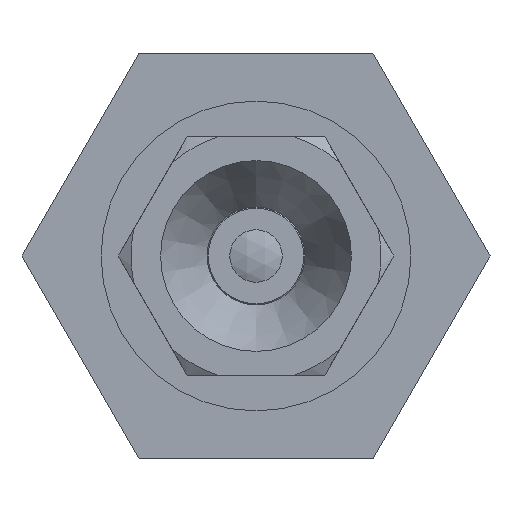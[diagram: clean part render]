
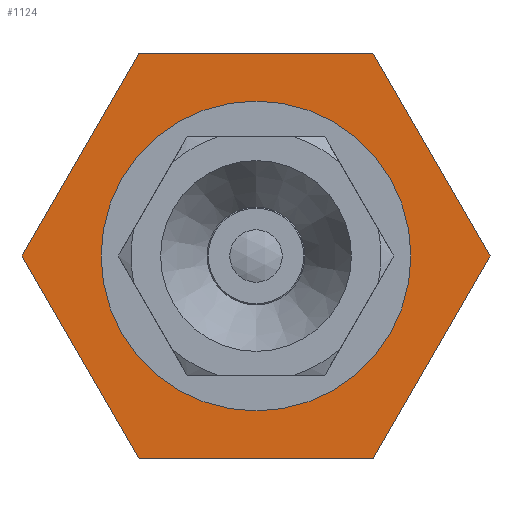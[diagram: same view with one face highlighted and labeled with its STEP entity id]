
A CAD part, front view. The second image highlights one B-rep face of the part: STEP entity #1124.
In plain terms, the highlighted planar face has unit normal (0, -1, 0) as drawn and (-1, 0, 0) by its records, which use the part's own axes.
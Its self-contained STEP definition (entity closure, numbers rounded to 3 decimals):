
#54=LINE('',#2328,#90);
#57=LINE('',#2334,#93);
#60=LINE('',#2340,#96);
#63=LINE('',#2346,#99);
#66=LINE('',#2352,#102);
#69=LINE('',#2357,#105);
#90=VECTOR('',#1920,1000.);
#93=VECTOR('',#1925,1000.);
#96=VECTOR('',#1930,1000.);
#99=VECTOR('',#1935,1000.);
#102=VECTOR('',#1940,1000.);
#105=VECTOR('',#1945,1000.);
#326=ORIENTED_EDGE('',*,*,#513,.F.);
#327=ORIENTED_EDGE('',*,*,#512,.F.);
#328=ORIENTED_EDGE('',*,*,#509,.F.);
#329=ORIENTED_EDGE('',*,*,#506,.F.);
#330=ORIENTED_EDGE('',*,*,#503,.F.);
#331=ORIENTED_EDGE('',*,*,#500,.F.);
#332=ORIENTED_EDGE('',*,*,#497,.F.);
#497=EDGE_CURVE('',#607,#608,#54,.T.);
#500=EDGE_CURVE('',#608,#610,#57,.T.);
#503=EDGE_CURVE('',#610,#612,#60,.T.);
#506=EDGE_CURVE('',#612,#614,#63,.T.);
#509=EDGE_CURVE('',#614,#616,#66,.T.);
#512=EDGE_CURVE('',#616,#607,#69,.T.);
#513=EDGE_CURVE('',#617,#617,#690,.T.);
#607=VERTEX_POINT('',#2327);
#608=VERTEX_POINT('',#2329);
#610=VERTEX_POINT('',#2335);
#612=VERTEX_POINT('',#2341);
#614=VERTEX_POINT('',#2347);
#616=VERTEX_POINT('',#2353);
#617=VERTEX_POINT('',#2360);
#690=CIRCLE('',#1683,6.5);
#788=EDGE_LOOP('',(#326));
#789=EDGE_LOOP('',(#327,#328,#329,#330,#331,#332));
#945=FACE_BOUND('',#788,.T.);
#946=FACE_BOUND('',#789,.T.);
#1070=PLANE('',#1682);
#1124=ADVANCED_FACE('',(#945,#946),#1070,.F.);
#1682=AXIS2_PLACEMENT_3D('',#2358,#1946,#1947);
#1683=AXIS2_PLACEMENT_3D('',#2359,#1948,#1949);
#1920=DIRECTION('',(0.,-0.5,0.866));
#1925=DIRECTION('',(0.,-1.,0.));
#1930=DIRECTION('',(0.,-0.5,-0.866));
#1935=DIRECTION('',(0.,0.5,-0.866));
#1940=DIRECTION('',(0.,1.,0.));
#1945=DIRECTION('',(0.,0.5,0.866));
#1946=DIRECTION('',(1.,0.,0.));
#1947=DIRECTION('',(0.,0.,-1.));
#1948=DIRECTION('',(-1.,0.,0.));
#1949=DIRECTION('',(0.,0.,1.));
#2327=CARTESIAN_POINT('',(8.,9.815,0.));
#2328=CARTESIAN_POINT('',(8.,9.815,0.));
#2329=CARTESIAN_POINT('',(8.,4.907,8.5));
#2334=CARTESIAN_POINT('',(8.,4.907,8.5));
#2335=CARTESIAN_POINT('',(8.,-4.907,8.5));
#2340=CARTESIAN_POINT('',(8.,-4.907,8.5));
#2341=CARTESIAN_POINT('',(8.,-9.815,0.));
#2346=CARTESIAN_POINT('',(8.,-9.815,0.));
#2347=CARTESIAN_POINT('',(8.,-4.907,-8.5));
#2352=CARTESIAN_POINT('',(8.,-4.907,-8.5));
#2353=CARTESIAN_POINT('',(8.,4.907,-8.5));
#2357=CARTESIAN_POINT('',(8.,4.907,-8.5));
#2358=CARTESIAN_POINT('',(8.,0.,12.5));
#2359=CARTESIAN_POINT('',(8.,0.,0.));
#2360=CARTESIAN_POINT('',(8.,0.,6.5));
